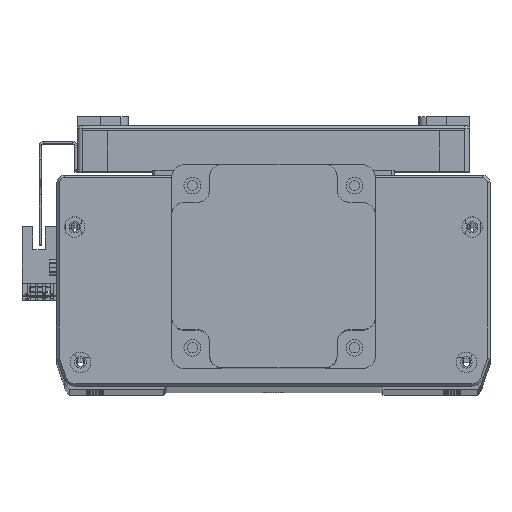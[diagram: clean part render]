
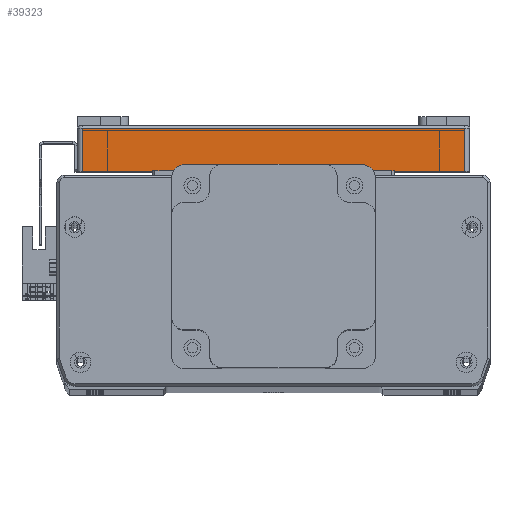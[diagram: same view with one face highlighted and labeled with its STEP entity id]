
A CAD part, top view. The second image highlights one B-rep face of the part: STEP entity #39323.
In plain terms, the highlighted planar face has unit normal (0, 0, 1) as drawn and (-1, 0, 0) by its records, which use the part's own axes.
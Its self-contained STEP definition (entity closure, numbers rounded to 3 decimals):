
#18097 = EDGE_CURVE ( 'NONE', #46610, #46601, #44124, .T. ) ;
#18140 = EDGE_CURVE ( 'NONE', #46636, #46610, #41595, .T. ) ;
#18142 = EDGE_CURVE ( 'NONE', #46546, #46636, #41578, .T. ) ;
#18152 = EDGE_CURVE ( 'NONE', #46601, #46546, #41612, .T. ) ;
#20718 = DIRECTION ( 'NONE',  ( 1., 0., 0. ) ) ;
#20762 = CARTESIAN_POINT ( 'NONE',  ( -115., 18., -77. ) ) ;
#20763 = PLANE ( 'NONE',  #33689 ) ;
#20764 = DIRECTION ( 'NONE',  ( 0., 0., -1. ) ) ;
#25377 = EDGE_LOOP ( 'NONE', ( #66950, #66364, #66372, #66400 ) ) ;
#30449 = FACE_OUTER_BOUND ( 'NONE', #25377, .T. ) ;
#33689 = AXIS2_PLACEMENT_3D ( 'NONE', #20762, #20718, #20764 ) ;
#39323 = ADVANCED_FACE ( 'NONE', ( #30449 ), #20763, .F. ) ;
#41513 = VECTOR ( 'NONE', #67452, 1000. ) ;
#41560 = VECTOR ( 'NONE', #67824, 1000. ) ;
#41578 = LINE ( 'NONE', #67836, #41560 ) ;
#41588 = VECTOR ( 'NONE', #67818, 1000. ) ;
#41595 = LINE ( 'NONE', #67802, #41588 ) ;
#41612 = LINE ( 'NONE', #67794, #41513 ) ;
#44124 = LINE ( 'NONE', #67693, #44157 ) ;
#44157 = VECTOR ( 'NONE', #67677, 1000. ) ;
#46546 = VERTEX_POINT ( 'NONE', #54466 ) ;
#46601 = VERTEX_POINT ( 'NONE', #54470 ) ;
#46610 = VERTEX_POINT ( 'NONE', #54479 ) ;
#46636 = VERTEX_POINT ( 'NONE', #54486 ) ;
#54466 = CARTESIAN_POINT ( 'NONE',  ( -115., 17., -75. ) ) ;
#54470 = CARTESIAN_POINT ( 'NONE',  ( -115., 17., 75. ) ) ;
#54479 = CARTESIAN_POINT ( 'NONE',  ( -115., 0., 75. ) ) ;
#54486 = CARTESIAN_POINT ( 'NONE',  ( -115., 0., -75. ) ) ;
#66364 = ORIENTED_EDGE ( 'NONE', *, *, #18152, .T. ) ;
#66372 = ORIENTED_EDGE ( 'NONE', *, *, #18142, .T. ) ;
#66400 = ORIENTED_EDGE ( 'NONE', *, *, #18140, .T. ) ;
#66950 = ORIENTED_EDGE ( 'NONE', *, *, #18097, .T. ) ;
#67452 = DIRECTION ( 'NONE',  ( 0., 0., -1. ) ) ;
#67677 = DIRECTION ( 'NONE',  ( 0., 1., 0. ) ) ;
#67693 = CARTESIAN_POINT ( 'NONE',  ( -115., 18., 75. ) ) ;
#67794 = CARTESIAN_POINT ( 'NONE',  ( -115., 17., -75. ) ) ;
#67802 = CARTESIAN_POINT ( 'NONE',  ( -115., 0., -77. ) ) ;
#67818 = DIRECTION ( 'NONE',  ( 0., 0., 1. ) ) ;
#67824 = DIRECTION ( 'NONE',  ( 0., -1., 0. ) ) ;
#67836 = CARTESIAN_POINT ( 'NONE',  ( -115., 18., -75. ) ) ;
